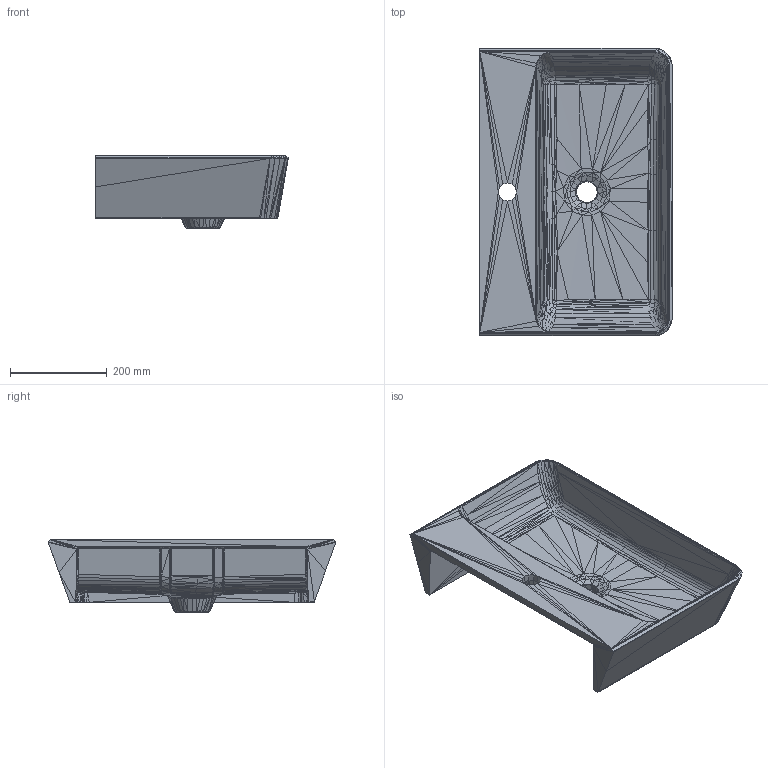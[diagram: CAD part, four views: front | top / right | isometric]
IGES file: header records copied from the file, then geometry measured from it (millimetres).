
Global section: file name: C:\Users\Sam Altman L JackSon\Downloads\Additional 2D and 3D files required for V+A NPD\Vetralla 60 1 hole\Vetralla 60 1 hole - 3d igs.igs; native system: Rhinoceros ( Mar  4 2026 ); preprocessor: Trout Lake IGES 012 Mar  4 2026; date: 260508.110728; units: millimetre
Bounding box: 398.99 x 595.82 x 151.09 mm (x, y, z)
Surface area: 869216.4 mm2 (no closed solid volume)
Topology: 0 solids, 0 shells, 2659 faces, 8349 edges, 8349 vertices
Faces by surface type: bspline 2659
